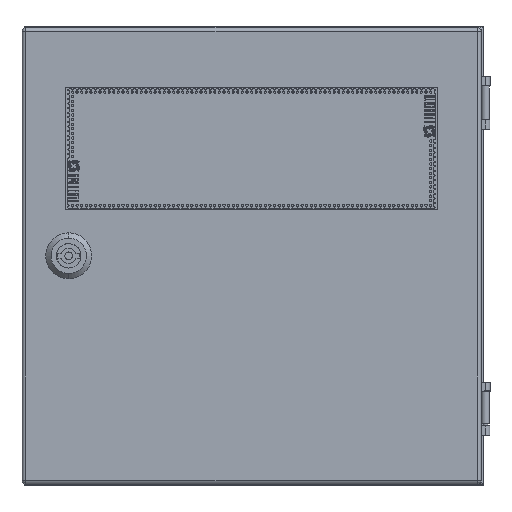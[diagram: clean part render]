
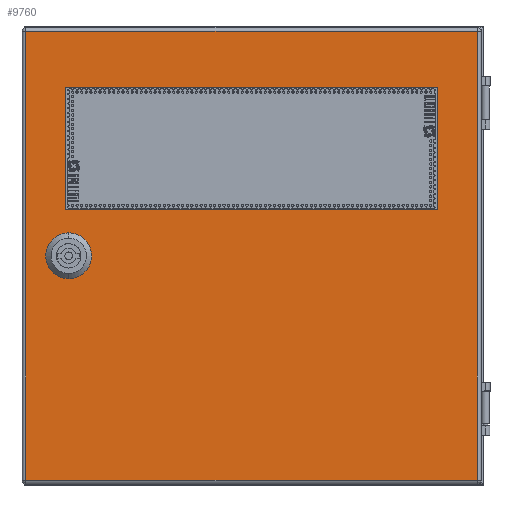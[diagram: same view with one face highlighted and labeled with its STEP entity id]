
A CAD part, top view. The second image highlights one B-rep face of the part: STEP entity #9760.
In plain terms, the highlighted planar face has unit normal (0, 0, 1).
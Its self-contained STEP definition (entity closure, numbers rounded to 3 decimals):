
#3305 = CIRCLE ( 'NONE', #8966, 11.5 ) ;
#3307 = CIRCLE ( 'NONE', #8991, 11.5 ) ;
#3309 = CIRCLE ( 'NONE', #8988, 11.5 ) ;
#3310 = CIRCLE ( 'NONE', #8962, 11.5 ) ;
#8944 = VECTOR ( 'NONE', #42682, 1000. ) ;
#8946 = VECTOR ( 'NONE', #42679, 1000. ) ;
#8948 = VECTOR ( 'NONE', #42676, 1000. ) ;
#8950 = VECTOR ( 'NONE', #42673, 1000. ) ;
#8953 = VECTOR ( 'NONE', #42670, 1000. ) ;
#8956 = VECTOR ( 'NONE', #42661, 1000. ) ;
#8959 = VECTOR ( 'NONE', #42655, 1000. ) ;
#8961 = VECTOR ( 'NONE', #42649, 1000. ) ;
#8962 = AXIS2_PLACEMENT_3D ( 'NONE', #42664, #42665, #42666 ) ;
#8964 = VECTOR ( 'NONE', #42646, 1000. ) ;
#8966 = AXIS2_PLACEMENT_3D ( 'NONE', #42619, #42650, #42651 ) ;
#8967 = VECTOR ( 'NONE', #42643, 1000. ) ;
#8968 = VECTOR ( 'NONE', #42640, 1000. ) ;
#8970 = VECTOR ( 'NONE', #42637, 1000. ) ;
#8988 = AXIS2_PLACEMENT_3D ( 'NONE', #42658, #42662, #42663 ) ;
#8991 = AXIS2_PLACEMENT_3D ( 'NONE', #42652, #42656, #42657 ) ;
#9760 = ADVANCED_FACE ( 'NONE', ( #65376, #65321, #65301 ), #17396, .T. ) ;
#17396 = PLANE ( 'NONE',  #65284 ) ;
#17399 = CARTESIAN_POINT ( 'NONE',  ( 0., 0., 14. ) ) ;
#17400 = DIRECTION ( 'NONE',  ( 0., 0., 1. ) ) ;
#17403 = DIRECTION ( 'NONE',  ( 1., 0., 0. ) ) ;
#30720 = EDGE_CURVE ( 'NONE', #49610, #49613, #42635, .T. ) ;
#30721 = EDGE_CURVE ( 'NONE', #49611, #49610, #42638, .T. ) ;
#30722 = EDGE_CURVE ( 'NONE', #49613, #49612, #42641, .T. ) ;
#30723 = EDGE_CURVE ( 'NONE', #49614, #49621, #42644, .T. ) ;
#30724 = EDGE_CURVE ( 'NONE', #49612, #49611, #42647, .T. ) ;
#30725 = EDGE_CURVE ( 'NONE', #49615, #49614, #3305, .T. ) ;
#30726 = EDGE_CURVE ( 'NONE', #49616, #49615, #42653, .T. ) ;
#30727 = EDGE_CURVE ( 'NONE', #49617, #49616, #3307, .T. ) ;
#30728 = EDGE_CURVE ( 'NONE', #49618, #49617, #42659, .T. ) ;
#30729 = EDGE_CURVE ( 'NONE', #49619, #49618, #3309, .T. ) ;
#30730 = EDGE_CURVE ( 'NONE', #49621, #49620, #3310, .T. ) ;
#30731 = EDGE_CURVE ( 'NONE', #49624, #49622, #42668, .T. ) ;
#30732 = EDGE_CURVE ( 'NONE', #49620, #49619, #42671, .T. ) ;
#30733 = EDGE_CURVE ( 'NONE', #49622, #49623, #42674, .T. ) ;
#30734 = EDGE_CURVE ( 'NONE', #49625, #49624, #42677, .T. ) ;
#30735 = EDGE_CURVE ( 'NONE', #49623, #49625, #42680, .T. ) ;
#34814 = ORIENTED_EDGE ( 'NONE', *, *, #30720, .T. ) ;
#34815 = ORIENTED_EDGE ( 'NONE', *, *, #30724, .T. ) ;
#34816 = ORIENTED_EDGE ( 'NONE', *, *, #30721, .T. ) ;
#34817 = ORIENTED_EDGE ( 'NONE', *, *, #30722, .T. ) ;
#34818 = ORIENTED_EDGE ( 'NONE', *, *, #30723, .T. ) ;
#34819 = ORIENTED_EDGE ( 'NONE', *, *, #30725, .T. ) ;
#34820 = ORIENTED_EDGE ( 'NONE', *, *, #30726, .T. ) ;
#34821 = ORIENTED_EDGE ( 'NONE', *, *, #30727, .T. ) ;
#34822 = ORIENTED_EDGE ( 'NONE', *, *, #30728, .T. ) ;
#34823 = ORIENTED_EDGE ( 'NONE', *, *, #30732, .T. ) ;
#34824 = ORIENTED_EDGE ( 'NONE', *, *, #30729, .T. ) ;
#34825 = ORIENTED_EDGE ( 'NONE', *, *, #30730, .T. ) ;
#34826 = ORIENTED_EDGE ( 'NONE', *, *, #30731, .F. ) ;
#34827 = ORIENTED_EDGE ( 'NONE', *, *, #30735, .F. ) ;
#34828 = ORIENTED_EDGE ( 'NONE', *, *, #30733, .F. ) ;
#34829 = ORIENTED_EDGE ( 'NONE', *, *, #30734, .F. ) ;
#42619 = CARTESIAN_POINT ( 'NONE',  ( -119.5, 0., 14. ) ) ;
#42635 = LINE ( 'NONE', #42636, #8970 ) ;
#42636 = CARTESIAN_POINT ( 'NONE',  ( -150., 146.6, 14. ) ) ;
#42637 = DIRECTION ( 'NONE',  ( -1., 0., 0. ) ) ;
#42638 = LINE ( 'NONE', #42639, #8968 ) ;
#42639 = CARTESIAN_POINT ( 'NONE',  ( 147.6, 149., 14. ) ) ;
#42640 = DIRECTION ( 'NONE',  ( 0., 1., 0. ) ) ;
#42641 = LINE ( 'NONE', #42642, #8967 ) ;
#42642 = CARTESIAN_POINT ( 'NONE',  ( -147.6, -149., 14. ) ) ;
#42643 = DIRECTION ( 'NONE',  ( 0., -1., 0. ) ) ;
#42644 = LINE ( 'NONE', #42645, #8964 ) ;
#42645 = CARTESIAN_POINT ( 'NONE',  ( -129.6, 5.499, 14. ) ) ;
#42646 = DIRECTION ( 'NONE',  ( 0., 1., 0. ) ) ;
#42647 = LINE ( 'NONE', #42648, #8961 ) ;
#42648 = CARTESIAN_POINT ( 'NONE',  ( 150., -146.6, 14. ) ) ;
#42649 = DIRECTION ( 'NONE',  ( 1., 0., 0. ) ) ;
#42650 = DIRECTION ( 'NONE',  ( 0., 0., -1. ) ) ;
#42651 = DIRECTION ( 'NONE',  ( -1., 0., 0. ) ) ;
#42652 = CARTESIAN_POINT ( 'NONE',  ( -119.5, 0., 14. ) ) ;
#42653 = LINE ( 'NONE', #42654, #8959 ) ;
#42654 = CARTESIAN_POINT ( 'NONE',  ( -124.999, -10.1, 14. ) ) ;
#42655 = DIRECTION ( 'NONE',  ( -1., 0., 0. ) ) ;
#42656 = DIRECTION ( 'NONE',  ( 0., 0., -1. ) ) ;
#42657 = DIRECTION ( 'NONE',  ( 1., 0., 0. ) ) ;
#42658 = CARTESIAN_POINT ( 'NONE',  ( -119.5, 0., 14. ) ) ;
#42659 = LINE ( 'NONE', #42660, #8956 ) ;
#42660 = CARTESIAN_POINT ( 'NONE',  ( -109.4, 5.499, 14. ) ) ;
#42661 = DIRECTION ( 'NONE',  ( 0., -1., 0. ) ) ;
#42662 = DIRECTION ( 'NONE',  ( 0., 0., -1. ) ) ;
#42663 = DIRECTION ( 'NONE',  ( -1., 0., 0. ) ) ;
#42664 = CARTESIAN_POINT ( 'NONE',  ( -119.5, 0., 14. ) ) ;
#42665 = DIRECTION ( 'NONE',  ( 0., 0., -1. ) ) ;
#42666 = DIRECTION ( 'NONE',  ( 1., 0., 0. ) ) ;
#42668 = LINE ( 'NONE', #42669, #8953 ) ;
#42669 = CARTESIAN_POINT ( 'NONE',  ( -121.5, 110., 14. ) ) ;
#42670 = DIRECTION ( 'NONE',  ( -1., 0., 0. ) ) ;
#42671 = LINE ( 'NONE', #42672, #8950 ) ;
#42672 = CARTESIAN_POINT ( 'NONE',  ( -124.999, 10.1, 14. ) ) ;
#42673 = DIRECTION ( 'NONE',  ( 1., 0., 0. ) ) ;
#42674 = LINE ( 'NONE', #42675, #8948 ) ;
#42675 = CARTESIAN_POINT ( 'NONE',  ( -121.5, 30., 14. ) ) ;
#42676 = DIRECTION ( 'NONE',  ( 0., -1., 0. ) ) ;
#42677 = LINE ( 'NONE', #42678, #8946 ) ;
#42678 = CARTESIAN_POINT ( 'NONE',  ( 121.5, 30., 14. ) ) ;
#42679 = DIRECTION ( 'NONE',  ( 0., 1., 0. ) ) ;
#42680 = LINE ( 'NONE', #42681, #8944 ) ;
#42681 = CARTESIAN_POINT ( 'NONE',  ( -121.5, 30., 14. ) ) ;
#42682 = DIRECTION ( 'NONE',  ( 1., 0., 0. ) ) ;
#45653 = EDGE_LOOP ( 'NONE', ( #34817, #34815, #34816, #34814 ) ) ;
#45654 = EDGE_LOOP ( 'NONE', ( #34825, #34823, #34824, #34822, #34821, #34820, #34819, #34818 ) ) ;
#45656 = EDGE_LOOP ( 'NONE', ( #34829, #34827, #34828, #34826 ) ) ;
#49610 = VERTEX_POINT ( 'NONE', #50956 ) ;
#49611 = VERTEX_POINT ( 'NONE', #50957 ) ;
#49612 = VERTEX_POINT ( 'NONE', #50958 ) ;
#49613 = VERTEX_POINT ( 'NONE', #50959 ) ;
#49614 = VERTEX_POINT ( 'NONE', #50960 ) ;
#49615 = VERTEX_POINT ( 'NONE', #50961 ) ;
#49616 = VERTEX_POINT ( 'NONE', #50962 ) ;
#49617 = VERTEX_POINT ( 'NONE', #50963 ) ;
#49618 = VERTEX_POINT ( 'NONE', #50964 ) ;
#49619 = VERTEX_POINT ( 'NONE', #50965 ) ;
#49620 = VERTEX_POINT ( 'NONE', #50966 ) ;
#49621 = VERTEX_POINT ( 'NONE', #50967 ) ;
#49622 = VERTEX_POINT ( 'NONE', #50968 ) ;
#49623 = VERTEX_POINT ( 'NONE', #50969 ) ;
#49624 = VERTEX_POINT ( 'NONE', #50970 ) ;
#49625 = VERTEX_POINT ( 'NONE', #50971 ) ;
#50956 = CARTESIAN_POINT ( 'NONE',  ( 147.6, 146.6, 14. ) ) ;
#50957 = CARTESIAN_POINT ( 'NONE',  ( 147.6, -146.6, 14. ) ) ;
#50958 = CARTESIAN_POINT ( 'NONE',  ( -147.6, -146.6, 14. ) ) ;
#50959 = CARTESIAN_POINT ( 'NONE',  ( -147.6, 146.6, 14. ) ) ;
#50960 = CARTESIAN_POINT ( 'NONE',  ( -129.6, -5.499, 14. ) ) ;
#50961 = CARTESIAN_POINT ( 'NONE',  ( -124.999, -10.1, 14. ) ) ;
#50962 = CARTESIAN_POINT ( 'NONE',  ( -114.001, -10.1, 14. ) ) ;
#50963 = CARTESIAN_POINT ( 'NONE',  ( -109.4, -5.499, 14. ) ) ;
#50964 = CARTESIAN_POINT ( 'NONE',  ( -109.4, 5.499, 14. ) ) ;
#50965 = CARTESIAN_POINT ( 'NONE',  ( -114.001, 10.1, 14. ) ) ;
#50966 = CARTESIAN_POINT ( 'NONE',  ( -124.999, 10.1, 14. ) ) ;
#50967 = CARTESIAN_POINT ( 'NONE',  ( -129.6, 5.499, 14. ) ) ;
#50968 = CARTESIAN_POINT ( 'NONE',  ( -121.5, 110., 14. ) ) ;
#50969 = CARTESIAN_POINT ( 'NONE',  ( -121.5, 30., 14. ) ) ;
#50970 = CARTESIAN_POINT ( 'NONE',  ( 121.5, 110., 14. ) ) ;
#50971 = CARTESIAN_POINT ( 'NONE',  ( 121.5, 30., 14. ) ) ;
#65284 = AXIS2_PLACEMENT_3D ( 'NONE', #17399, #17400, #17403 ) ;
#65301 = FACE_OUTER_BOUND ( 'NONE', #45653, .T. ) ;
#65321 = FACE_BOUND ( 'NONE', #45654, .T. ) ;
#65376 = FACE_BOUND ( 'NONE', #45656, .T. ) ;
